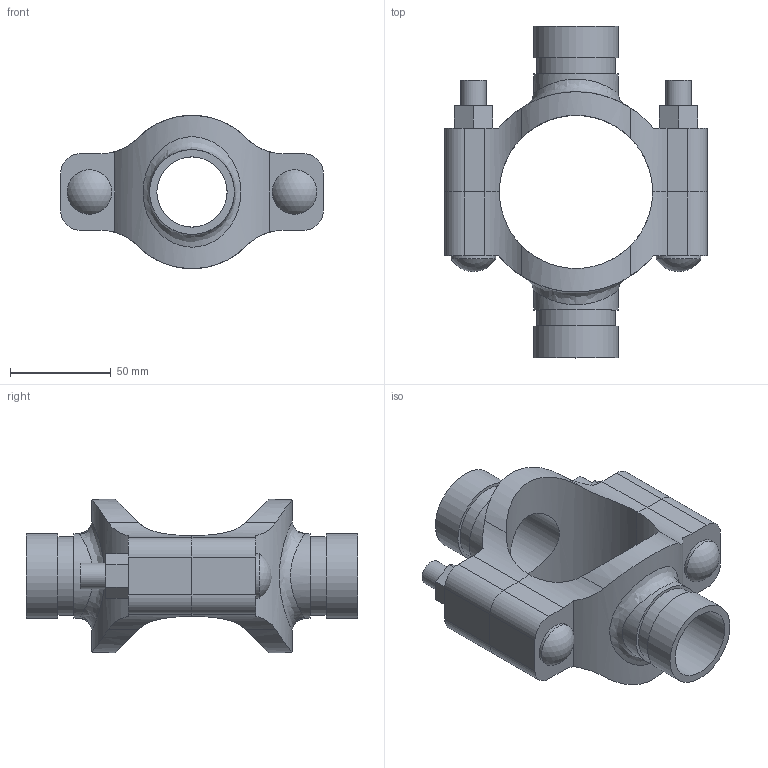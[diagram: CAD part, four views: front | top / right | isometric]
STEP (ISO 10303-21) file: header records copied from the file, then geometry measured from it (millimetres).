
FILE_DESCRIPTION(/* description */ ('VIC MECH-T BRANCH OUTLET CROSS STYLE 920N (GRVD)','CAx-IF Rec.Pracs.---Representation and Presentation of Product Manufacturing Information (PMI)---4.0---2014-10-13'),/* implementation_level */ '2;1');
FILE_NAME(/* name */ 'C:\Users\Vjadhav\AppData\Roaming\Autodesk\ApplicationPlugins\Back Up\Victaulic_IPS_Mechanical-Cross Outlet_Style 920N (OGS)\Victaulic_IPS_Mechanical-Cross Outlet_02.5 (76.1)x01.25x01.25 (65x32x32).stp',/* time_stamp */ '2020-08-06T19:43:15+05:00',/* author */ ('Vjadhav'),/* organization */ ('Victaulic'),/* preprocessor_version */ 'ST-DEVELOPER v17.2',/* originating_system */ 'Autodesk Inventor 2019',/* authorisation */ '');
FILE_SCHEMA (('AP242_MANAGED_MODEL_BASED_3D_ENGINEERING_MIM_LF { 1 0 10303 442 1 1 4 }'));
Length unit declared in the file: inch
Products named in the file (3): 920NG-02.5 (76.1)x01.25x01.25; 920NG-02.5 (76.1)x01.25; 920NG-02.5 (76.1)x01.25_1
Assembly tree (2 placements, depth 2):
  920NG-02.5 (76.1)x01.25x01.25
    920NG-02.5 (76.1)x01.25
    920NG-02.5 (76.1)x01.25_1
Bounding box: 130.56 x 165.1 x 76.2 mm (x, y, z)
Volume: 264527.4 mm3; surface area: 78711.9 mm2
Topology: 2 solids, 2 shells, 104 faces, 262 edges, 178 vertices
Faces by surface type: plane 54, cylinder 46, sphere 2, bspline 2
Full cylindrical faces by diameter (mm): 12.7 x4, 22.225 x2, 34.925 x2, 38.989 x2, 42.164 x4
Entity records: 4070 total; most frequent: CARTESIAN_POINT 1285, DIRECTION 540, ORIENTED_EDGE 524, EDGE_CURVE 262, AXIS2_PLACEMENT_3D 197, VERTEX_POINT 178, LINE 146, VECTOR 146
